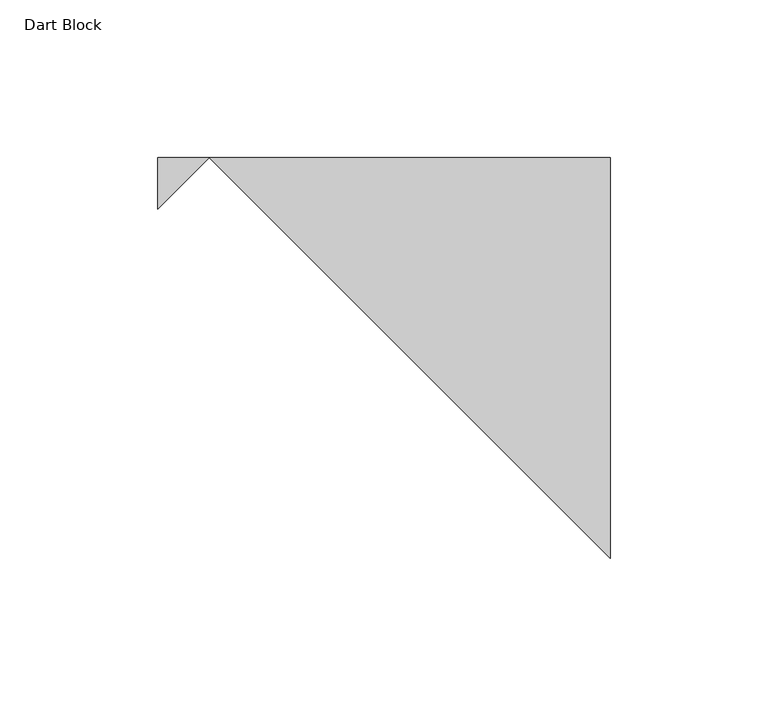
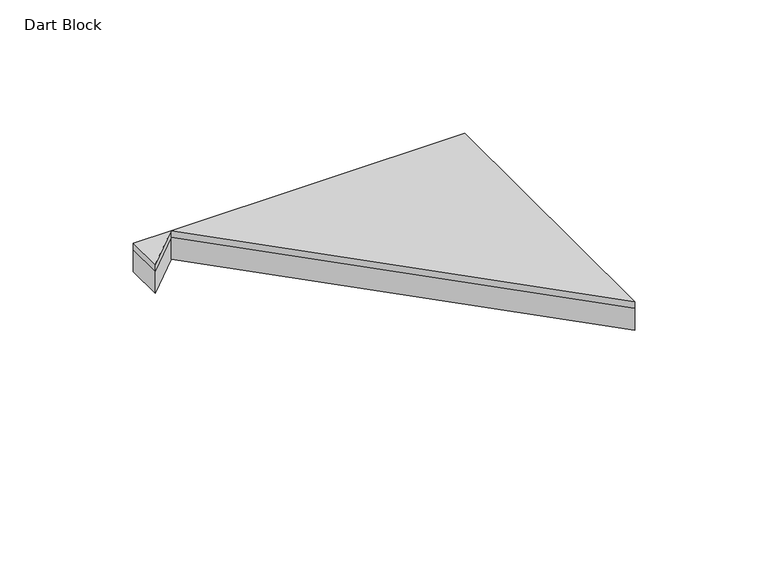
"""IFC4 building model written with IfcOpenShell, lengths in millimetres: proxy geometry, FilzFelt_Dart_Block : Dart Block."""

from ifc_helpers import new_model, si_unit, origin, place, context, project, spatial, faceted_brep, source, transform, mapped, element, save


def dart_block_c844b8d5(model_context):
    return source(origin(), model_context, "Body", "Brep", [
        faceted_brep([(127.0, -190.5, 10.0210937), (0.0, -63.5, 10.0210937), (127.0, -63.5, 10.0210937), (-16.3517499, -79.8517499, 10.0210937), (-16.3517499, -63.5, 10.0210937), (0.0, -63.5, 12.9976563), (127.0, -190.5, 12.9976563), (127.0, -63.5, 12.9976563), (-16.3517499, -79.8517499, 12.9976563), (-16.3517499, -63.5, 12.9976563)], [[[0, 1, 2]], [[1, 3, 4]], [[5, 6, 7]], [[8, 5, 9]], [[6, 0, 2, 7]], [[1, 0, 6, 5]], [[1, 5, 8, 3]], [[2, 1, 4, 9, 5, 7]], [[4, 3, 8, 9]]]),
        faceted_brep([(127.0, -190.5, 0.0), (0.0, -63.5, 0.0), (127.0, -63.5, 0.0), (-16.3517499, -79.8517499, 0.0), (-16.3517499, -63.5, 0.0), (0.0, -63.5, 10.0210937), (127.0, -190.5, 10.0210937), (127.0, -63.5, 10.0210937), (-16.3517499, -79.8517499, 10.0210937), (-16.3517499, -63.5, 10.0210937)], [[[0, 1, 2]], [[1, 3, 4]], [[5, 6, 7]], [[8, 5, 9]], [[1, 0, 6, 5]], [[1, 5, 8, 3]], [[6, 0, 2, 7]], [[2, 1, 4, 9, 5, 7]], [[4, 3, 8, 9]]]),
    ])


if __name__ == "__main__":
    model = new_model("IFC4")
    model_context = context("Model", 3, world=origin())
    ifc_project = project(units=[si_unit("LENGTHUNIT", "METRE", prefix="MILLI")], contexts=[model_context])
    site = spatial("IfcSite", under=ifc_project)
    building = spatial("IfcBuilding", under=site)
    placement = place(None, origin())
    dart_block_shape = dart_block_c844b8d5(model_context)
    element("IfcBuildingElementProxy", 1, Name="FilzFelt_Dart_Block : Dart Block", ObjectType="FilzFelt_Dart_Block : Dart Block", at=placement, inside=building, context=model_context, shape_type="MappedRepresentation", body=[
        mapped(dart_block_shape, transform((0.0, 0.0, 0.0), x_axis=(1.0, 0.0, 0.0), y_axis=(0.0, 1.0, 0.0), z_axis=(0.0, 0.0, 1.0))),
    ])
    save(model, "model.ifc")
